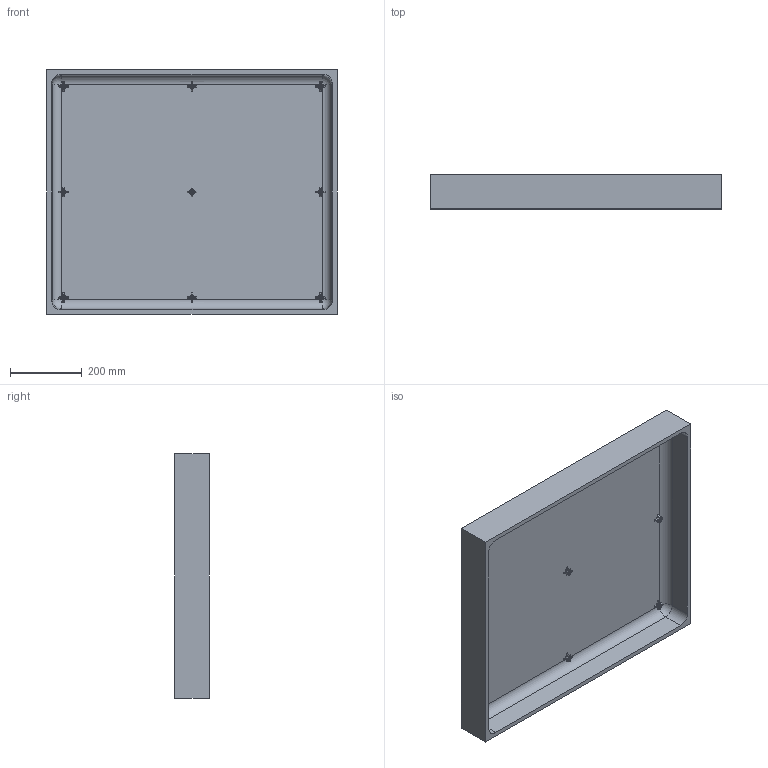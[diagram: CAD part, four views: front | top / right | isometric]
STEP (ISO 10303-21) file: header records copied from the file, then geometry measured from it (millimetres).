
FILE_DESCRIPTION (( 'STEP AP214' ), '1' );
FILE_NAME ('1690E - 932 TOP PID 2-21-2025.STEP', '2025-05-22T05:28:51', ( '' ), ( '' ), 'SwSTEP 2.0', 'SolidWorks 2021', '' );
FILE_SCHEMA (( 'AUTOMOTIVE_DESIGN' ));
Length unit declared in the file: inch
Products named in the file (1): 1690E - 932 TOP PID 2-21-2025
Bounding box: 810.51 x 95.25 x 683.51 mm (x, y, z)
Volume: 10908617.2 mm3; surface area: 1595148.1 mm2
Topology: 1 solids, 1 shells, 993 faces, 2286 edges, 1162 vertices
Faces by surface type: bspline 276, cylinder 272, sphere 144, plane 141, torus 88, cone 72
Entity records: 32220 total; most frequent: CARTESIAN_POINT 12654, ORIENTED_EDGE 4284, DIRECTION 3972, EDGE_CURVE 2142, AXIS2_PLACEMENT_3D 1682, VERTEX_POINT 1162, EDGE_LOOP 1004, ADVANCED_FACE 993
